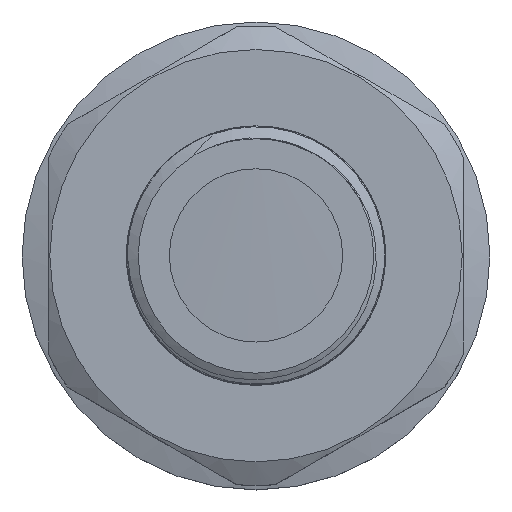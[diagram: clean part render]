
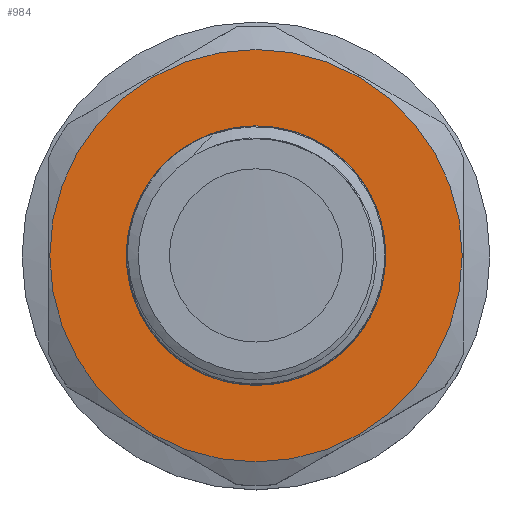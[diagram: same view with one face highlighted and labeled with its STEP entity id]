
A CAD part, top view. The second image highlights one B-rep face of the part: STEP entity #984.
In plain terms, the highlighted planar face has unit normal (0, 0, 1).
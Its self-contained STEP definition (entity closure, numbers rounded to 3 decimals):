
#20=FACE_BOUND('',#202,.T.);
#45=PLANE('',#1091);
#64=CIRCLE('',#1028,7.475);
#65=CIRCLE('',#1029,7.475);
#73=CIRCLE('',#1044,11.9);
#74=CIRCLE('',#1045,11.9);
#142=FACE_OUTER_BOUND('',#201,.T.);
#201=EDGE_LOOP('',(#816,#817));
#202=EDGE_LOOP('',(#818,#819));
#364=VERTEX_POINT('',#1394);
#365=VERTEX_POINT('',#1396);
#392=VERTEX_POINT('',#1808);
#393=VERTEX_POINT('',#1810);
#468=EDGE_CURVE('',#364,#365,#64,.T.);
#469=EDGE_CURVE('',#365,#364,#65,.T.);
#504=EDGE_CURVE('',#393,#392,#73,.T.);
#505=EDGE_CURVE('',#392,#393,#74,.T.);
#816=ORIENTED_EDGE('',*,*,#504,.T.);
#817=ORIENTED_EDGE('',*,*,#505,.T.);
#818=ORIENTED_EDGE('',*,*,#469,.F.);
#819=ORIENTED_EDGE('',*,*,#468,.F.);
#984=ADVANCED_FACE('',(#142,#20),#45,.T.);
#1028=AXIS2_PLACEMENT_3D('',#1397,#1122,#1123);
#1029=AXIS2_PLACEMENT_3D('',#1398,#1124,#1125);
#1044=AXIS2_PLACEMENT_3D('',#1811,#1162,#1163);
#1045=AXIS2_PLACEMENT_3D('',#1812,#1164,#1165);
#1091=AXIS2_PLACEMENT_3D('',#5252,#1273,#1274);
#1122=DIRECTION('center_axis',(0.,0.,1.));
#1123=DIRECTION('ref_axis',(1.,0.,0.));
#1124=DIRECTION('center_axis',(0.,0.,1.));
#1125=DIRECTION('ref_axis',(1.,0.,0.));
#1162=DIRECTION('center_axis',(0.,0.,1.));
#1163=DIRECTION('ref_axis',(0.,1.,0.));
#1164=DIRECTION('center_axis',(0.,0.,1.));
#1165=DIRECTION('ref_axis',(0.,1.,0.));
#1273=DIRECTION('center_axis',(0.,0.,1.));
#1274=DIRECTION('ref_axis',(1.,0.,0.));
#1394=CARTESIAN_POINT('',(0.,7.475,10.5));
#1396=CARTESIAN_POINT('',(0.,-7.475,10.5));
#1397=CARTESIAN_POINT('Origin',(0.,0.,10.5));
#1398=CARTESIAN_POINT('Origin',(0.,0.,10.5));
#1808=CARTESIAN_POINT('',(0.,-11.9,10.5));
#1810=CARTESIAN_POINT('',(0.,11.9,10.5));
#1811=CARTESIAN_POINT('Origin',(0.,0.,10.5));
#1812=CARTESIAN_POINT('Origin',(0.,0.,10.5));
#5252=CARTESIAN_POINT('Origin',(0.,-7.475,10.5));
